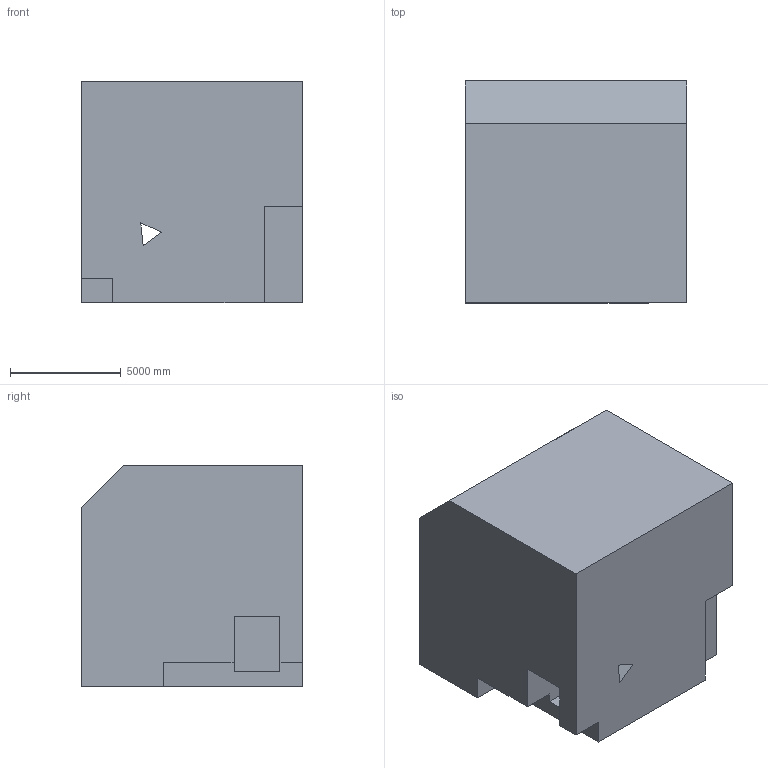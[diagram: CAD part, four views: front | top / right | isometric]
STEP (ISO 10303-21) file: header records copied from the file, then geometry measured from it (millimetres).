
FILE_DESCRIPTION (( 'STEP AP203' ), '1' );
FILE_NAME ('66.STEP', '2022-08-30T14:19:02', ( 'user' ), ( '' ), 'SwSTEP 2.0', 'SolidWorks 2021', '' );
FILE_SCHEMA (( 'CONFIG_CONTROL_DESIGN' ));
Length unit declared in the file: centimetre
Products named in the file (1): 66
Bounding box: 10000 x 10000 x 10000 mm (x, y, z)
Volume: 903272929120.8 mm3; surface area: 724252449.4 mm2
Topology: 1 solids, 1 shells, 30 faces, 84 edges, 56 vertices
Faces by surface type: plane 28, cylinder 2
Entity records: 1037 total; most frequent: CARTESIAN_POINT 171, ORIENTED_EDGE 168, DIRECTION 150, EDGE_CURVE 84, VECTOR 80, LINE 80, VERTEX_POINT 56, AXIS2_PLACEMENT_3D 35
